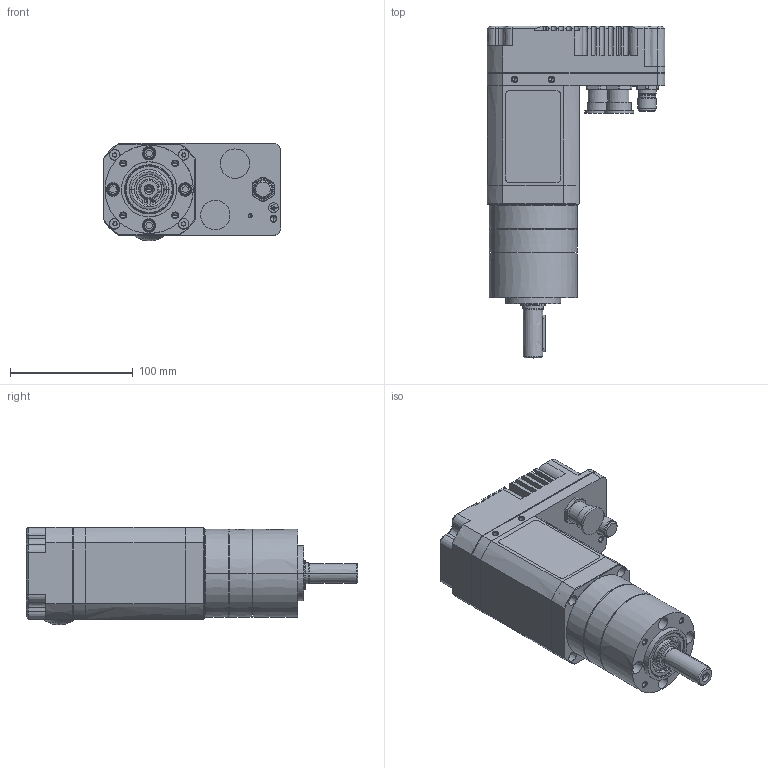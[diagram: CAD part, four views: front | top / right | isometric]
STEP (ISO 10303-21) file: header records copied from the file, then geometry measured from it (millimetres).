
FILE_DESCRIPTION((''),'2;1');
FILE_NAME('8035D_2ETAGES','2018-08-28T',('ALECMA1'),('CROUZET-AUTOMATISMES'),'CREO PARAMETRIC BY PTC INC, 2017170','CREO PARAMETRIC BY PTC INC, 2017170','');
FILE_SCHEMA(('AP203_CONFIGURATION_CONTROLLED_3D_DESIGN_OF_MECHANICAL_PARTS_AND_ASSEMBLIES_MIM_LF { 1 0 10303 403 2 1 2 }'));
Products named in the file (1): 8035D_2ETAGES
Bounding box: 145 x 270.9 x 79.7 mm (x, y, z)
Surface area: 141272.7 mm2 (no closed solid volume)
Topology: 0 solids, 0 shells, 688 faces, 3537 edges, 3495 vertices
Faces by surface type: bspline 662, torus 22, sphere 4
Entity records: 67635 total; most frequent: CARTESIAN_POINT 29705, DIRECTION 5557, TRIMMED_CURVE 4726, VECTOR 3972, LINE 3972, DEFINITIONAL_REPRESENTATION 3473, PCURVE 3473, COMPOSITE_CURVE_SEGMENT 3473
